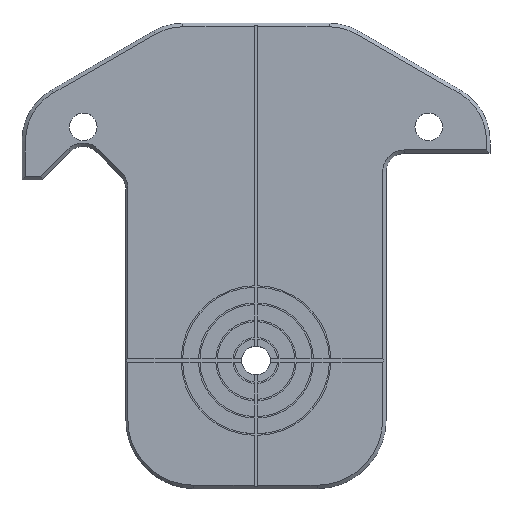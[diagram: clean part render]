
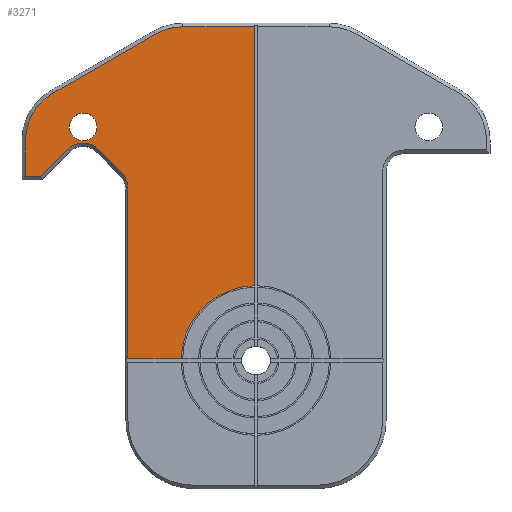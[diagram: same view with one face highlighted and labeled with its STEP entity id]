
A CAD part, top view. The second image highlights one B-rep face of the part: STEP entity #3271.
In plain terms, the highlighted planar face has unit normal (0, 0, 1).
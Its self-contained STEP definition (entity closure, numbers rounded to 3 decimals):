
#864=DIRECTION('',(1.,0.,0.));
#865=VECTOR('',#864,4.632);
#866=CARTESIAN_POINT('',(-11.13,0.15,2.));
#867=LINE('',#866,#865);
#868=DIRECTION('',(0.,1.,0.));
#869=VECTOR('',#868,14.887);
#870=CARTESIAN_POINT('',(-11.13,0.15,2.));
#871=LINE('',#870,#869);
#872=CARTESIAN_POINT('',(-11.13,15.037,2.));
#873=CARTESIAN_POINT('',(-11.13,15.172,2.));
#874=CARTESIAN_POINT('',(-11.158,15.436,2.));
#875=CARTESIAN_POINT('',(-11.288,15.826,2.));
#876=CARTESIAN_POINT('',(-11.425,16.055,2.));
#877=CARTESIAN_POINT('',(-11.507,16.165,2.));
#879=DIRECTION('',(-0.707,0.707,0.));
#880=VECTOR('',#879,3.082);
#881=CARTESIAN_POINT('',(-11.507,16.165,2.));
#882=LINE('',#881,#880);
#883=CARTESIAN_POINT('',(-15.011,17.018,2.));
#884=DIRECTION('',(0.,0.,1.));
#885=DIRECTION('',(0.707,0.707,0.));
#886=AXIS2_PLACEMENT_3D('',#883,#884,#885);
#888=DIRECTION('',(-0.707,-0.707,0.));
#889=VECTOR('',#888,3.318);
#890=CARTESIAN_POINT('',(-16.337,18.344,2.));
#891=LINE('',#890,#889);
#892=DIRECTION('',(-1.,0.,0.));
#893=VECTOR('',#892,1.336);
#894=CARTESIAN_POINT('',(-18.684,15.997,2.));
#895=LINE('',#894,#893);
#896=DIRECTION('',(0.,1.,0.));
#897=VECTOR('',#896,3.076);
#898=CARTESIAN_POINT('',(-20.02,15.997,2.));
#899=LINE('',#898,#897);
#900=CARTESIAN_POINT('',(-15.24,19.074,2.));
#901=DIRECTION('',(0.,0.,-1.));
#902=DIRECTION('',(-1.,0.,0.));
#903=AXIS2_PLACEMENT_3D('',#900,#901,#902);
#905=DIRECTION('',(0.866,0.5,0.));
#906=VECTOR('',#905,10.265);
#907=CARTESIAN_POINT('',(-17.63,23.213,2.));
#908=LINE('',#907,#906);
#909=CARTESIAN_POINT('',(-6.35,24.206,2.));
#910=DIRECTION('',(0.,0.,-1.));
#911=DIRECTION('',(-0.5,0.866,0.));
#912=AXIS2_PLACEMENT_3D('',#909,#910,#911);
#914=DIRECTION('',(1.,0.,0.));
#915=VECTOR('',#914,6.2);
#916=CARTESIAN_POINT('',(-6.35,28.986,2.));
#917=LINE('',#916,#915);
#918=DIRECTION('',(0.,-1.,0.));
#919=VECTOR('',#918,22.488);
#920=CARTESIAN_POINT('',(-0.15,28.986,2.));
#921=LINE('',#920,#919);
#922=CARTESIAN_POINT('',(0.,0.,2.));
#923=DIRECTION('',(0.,0.,1.));
#924=DIRECTION('',(-0.023,1.,0.));
#925=AXIS2_PLACEMENT_3D('',#922,#923,#924);
#927=CARTESIAN_POINT('',(-15.,20.283,2.));
#928=DIRECTION('',(0.,0.,1.));
#929=DIRECTION('',(1.,0.,0.));
#930=AXIS2_PLACEMENT_3D('',#927,#928,#929);
#932=CARTESIAN_POINT('',(-15.,20.283,2.));
#933=DIRECTION('',(0.,0.,1.));
#934=DIRECTION('',(-1.,0.,0.));
#935=AXIS2_PLACEMENT_3D('',#932,#933,#934);
#1645=VERTEX_POINT('',#872);
#1646=VERTEX_POINT('',#877);
#1647=CARTESIAN_POINT('',(-13.686,18.344,2.));
#1648=VERTEX_POINT('',#1647);
#1649=CARTESIAN_POINT('',(-16.337,18.344,2.));
#1650=VERTEX_POINT('',#1649);
#1657=CARTESIAN_POINT('',(-18.684,15.997,2.));
#1658=VERTEX_POINT('',#1657);
#1661=CARTESIAN_POINT('',(-20.02,15.997,2.));
#1662=VERTEX_POINT('',#1661);
#1663=CARTESIAN_POINT('',(-8.74,28.346,2.));
#1664=CARTESIAN_POINT('',(-6.35,28.986,2.));
#1665=VERTEX_POINT('',#1663);
#1666=VERTEX_POINT('',#1664);
#1671=CARTESIAN_POINT('',(-17.63,23.213,2.));
#1672=VERTEX_POINT('',#1671);
#1675=CARTESIAN_POINT('',(-20.02,19.074,2.));
#1676=VERTEX_POINT('',#1675);
#1877=CARTESIAN_POINT('',(-11.13,0.15,2.));
#1878=CARTESIAN_POINT('',(-6.498,0.15,2.));
#1879=VERTEX_POINT('',#1877);
#1880=VERTEX_POINT('',#1878);
#1881=CARTESIAN_POINT('',(-0.15,28.986,2.));
#1882=CARTESIAN_POINT('',(-0.15,6.498,2.));
#1883=VERTEX_POINT('',#1881);
#1884=VERTEX_POINT('',#1882);
#2031=CARTESIAN_POINT('',(-13.8,20.283,2.));
#2032=CARTESIAN_POINT('',(-16.2,20.283,2.));
#2033=VERTEX_POINT('',#2031);
#2034=VERTEX_POINT('',#2032);
#3232=CARTESIAN_POINT('',(-15.24,19.074,2.));
#3233=DIRECTION('',(0.,0.,1.));
#3234=DIRECTION('',(1.,0.,0.));
#3235=AXIS2_PLACEMENT_3D('',#3232,#3233,#3234);
#3236=PLANE('',#3235);
#3237=ORIENTED_EDGE('',*,*,#3035,.F.);
#3239=ORIENTED_EDGE('',*,*,#3238,.T.);
#3241=ORIENTED_EDGE('',*,*,#3240,.T.);
#3243=ORIENTED_EDGE('',*,*,#3242,.T.);
#3245=ORIENTED_EDGE('',*,*,#3244,.T.);
#3247=ORIENTED_EDGE('',*,*,#3246,.T.);
#3249=ORIENTED_EDGE('',*,*,#3248,.T.);
#3251=ORIENTED_EDGE('',*,*,#3250,.T.);
#3253=ORIENTED_EDGE('',*,*,#3252,.T.);
#3255=ORIENTED_EDGE('',*,*,#3254,.T.);
#3257=ORIENTED_EDGE('',*,*,#3256,.T.);
#3259=ORIENTED_EDGE('',*,*,#3258,.T.);
#3260=ORIENTED_EDGE('',*,*,#3108,.T.);
#3262=ORIENTED_EDGE('',*,*,#3261,.T.);
#3263=EDGE_LOOP('',(#3237,#3239,#3241,#3243,#3245,#3247,#3249,#3251,#3253,#3255,
#3257,#3259,#3260,#3262));
#3264=FACE_OUTER_BOUND('',#3263,.F.);
#3266=ORIENTED_EDGE('',*,*,#3265,.T.);
#3268=ORIENTED_EDGE('',*,*,#3267,.T.);
#3269=EDGE_LOOP('',(#3266,#3268));
#3270=FACE_BOUND('',#3269,.F.);
#3271=ADVANCED_FACE('',(#3264,#3270),#3236,.T.);
#878=B_SPLINE_CURVE_WITH_KNOTS('',3,(#872,#873,#874,#875,#876,#877),
.UNSPECIFIED.,.F.,.F.,(4,1,1,4),(0.,0.333,0.667,1.),
.UNSPECIFIED.);
#887=CIRCLE('',#886,1.875);
#904=CIRCLE('',#903,4.78);
#913=CIRCLE('',#912,4.78);
#926=CIRCLE('',#925,6.5);
#931=CIRCLE('',#930,1.2);
#936=CIRCLE('',#935,1.2);
#3035=EDGE_CURVE('',#1879,#1880,#867,.T.);
#3108=EDGE_CURVE('',#1883,#1884,#921,.T.);
#3238=EDGE_CURVE('',#1879,#1645,#871,.T.);
#3240=EDGE_CURVE('',#1645,#1646,#878,.T.);
#3242=EDGE_CURVE('',#1646,#1648,#882,.T.);
#3244=EDGE_CURVE('',#1648,#1650,#887,.T.);
#3246=EDGE_CURVE('',#1650,#1658,#891,.T.);
#3248=EDGE_CURVE('',#1658,#1662,#895,.T.);
#3250=EDGE_CURVE('',#1662,#1676,#899,.T.);
#3252=EDGE_CURVE('',#1676,#1672,#904,.T.);
#3254=EDGE_CURVE('',#1672,#1665,#908,.T.);
#3256=EDGE_CURVE('',#1665,#1666,#913,.T.);
#3258=EDGE_CURVE('',#1666,#1883,#917,.T.);
#3261=EDGE_CURVE('',#1884,#1880,#926,.T.);
#3265=EDGE_CURVE('',#2033,#2034,#931,.T.);
#3267=EDGE_CURVE('',#2034,#2033,#936,.T.);
